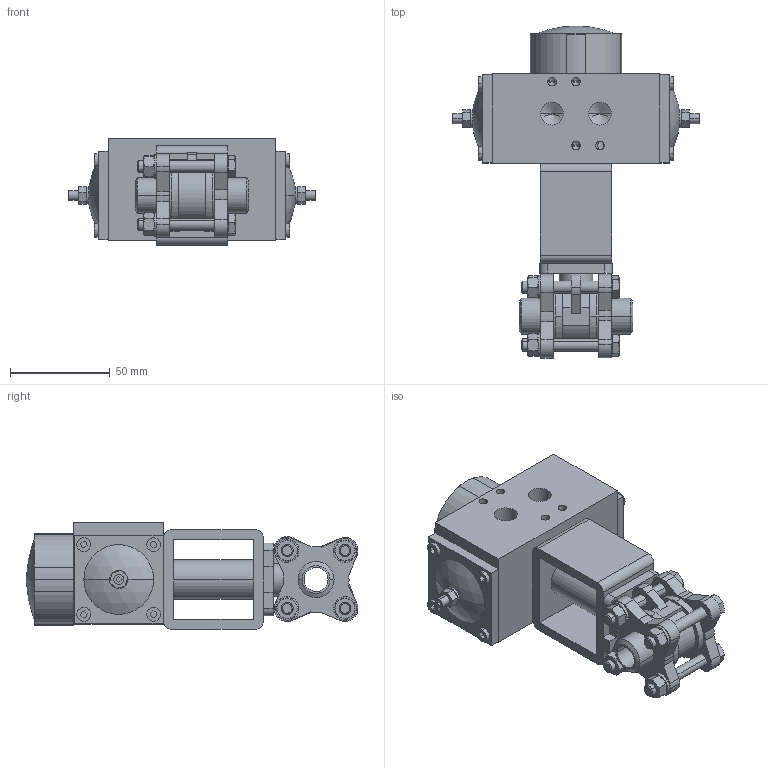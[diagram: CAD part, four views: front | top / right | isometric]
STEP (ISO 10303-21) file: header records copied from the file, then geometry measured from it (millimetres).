
FILE_DESCRIPTION (( 'STEP AP214' ), '1' );
FILE_NAME ('A13 DN8-1_4 BW + AP0D.STEP', '2012-04-23T09:23:44', ( '' ), ( '' ), 'SwSTEP 2.0', 'SolidWorks 2011', '' );
FILE_SCHEMA (( 'AUTOMOTIVE_DESIGN' ));
Length unit declared in the file: millimetre
Products named in the file (9): AP0_Default<As Machined>; Brugstuk simplified_YB5050F3F3-3; A13 DN08 Buttweld; Hexagon Nut ISO 4032 - M6 - D - N_Hexagon Nut ISO 4032 - M6 - D - N; Spring washer DIN 128 - A6_Spring washer DIN 128 - A6; ISO 4014 - M6 x 45 x 18-N_ISO 4014 - M6 x 45 x 18-N; A13 Flens Buttweld DN08; A13 KK DN08 PN63; A13 DN8-1_4 BW + AP0D
Assembly tree (18 placements, depth 3):
  A13 DN8-1_4 BW + AP0D
    A13 DN08 Buttweld
      ISO 4014 - M6 x 45 x 18-N_ISO 4014 - M6 x 45 x 18-N  x4
      A13 KK DN08 PN63
      Hexagon Nut ISO 4032 - M6 - D - N_Hexagon Nut ISO 4032 - M6 - D - N  x4
      A13 Flens Buttweld DN08  x2
      Spring washer DIN 128 - A6_Spring washer DIN 128 - A6  x4
    AP0_Default<As Machined>
    Brugstuk simplified_YB5050F3F3-3
Bounding box: 123.81 x 166.49 x 53.5 mm (x, y, z)
Volume: 398248.9 mm3; surface area: 90257.3 mm2
Topology: 21 solids, 21 shells, 710 faces, 1675 edges, 1035 vertices
Faces by surface type: plane 355, cylinder 196, cone 137, torus 16, sphere 6
Entity records: 15394 total; most frequent: CARTESIAN_POINT 2684, DIRECTION 2447, ORIENTED_EDGE 2264, EDGE_CURVE 1132, AXIS2_PLACEMENT_3D 868, VERTEX_POINT 727, LINE 711, VECTOR 711
